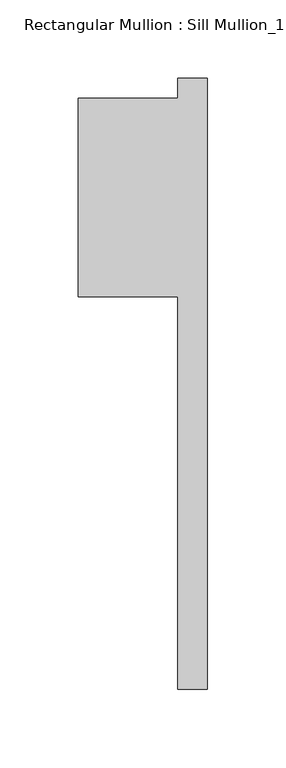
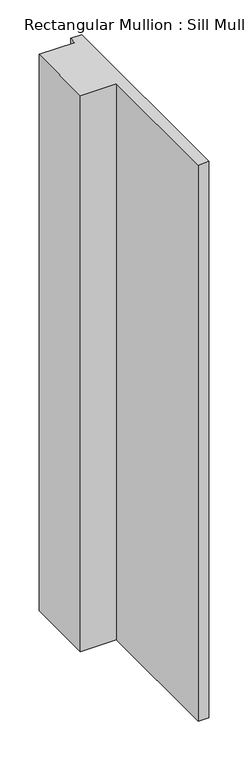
"""IFC4 building model written with IfcOpenShell, lengths in millimetres: member geometry."""

from ifc_helpers import new_model, si_unit, frame, origin, place, context, project, spatial, polyline, outline, extrude, source, transform, mapped, element, save


def member_2fc8bb8b(model_context):
    return source(origin(), model_context, "Body", "SweptSolid", [
        extrude(outline(polyline([(-82.55, -50.8), (-82.55, 76.2), (-19.05, 76.2), (-19.05, 88.9), (0.0, 88.9), (0.0, -301.625), (-19.05, -301.625), (-19.05, -50.8), (-82.55, -50.8)])), frame((0.0, 0.0, -1040.886998), z_axis=(0.0, 0.0, 1.0), x_axis=(1.0, 0.0, 0.0)), (0.0, 0.0, 1.0), 1040.886998),
    ])


if __name__ == "__main__":
    model = new_model("IFC4")
    model_context = context("Model", 3, world=origin())
    ifc_project = project(units=[si_unit("LENGTHUNIT", "METRE", prefix="MILLI")], contexts=[model_context])
    site = spatial("IfcSite", under=ifc_project)
    building = spatial("IfcBuilding", under=site)
    placement = place(None, origin())
    member_shape = member_2fc8bb8b(model_context)
    element("IfcMember", 1, ObjectType="Rectangular Mullion : Sill Mullion_15\" thick wall", at=placement, inside=building, context=model_context, shape_type="MappedRepresentation", body=[
        mapped(member_shape, transform((0.0, 0.0, 0.0), x_axis=(1.0, 0.0, 0.0), y_axis=(0.0, 1.0, 0.0), z_axis=(0.0, 0.0, 1.0))),
    ])
    save(model, "model.ifc")
